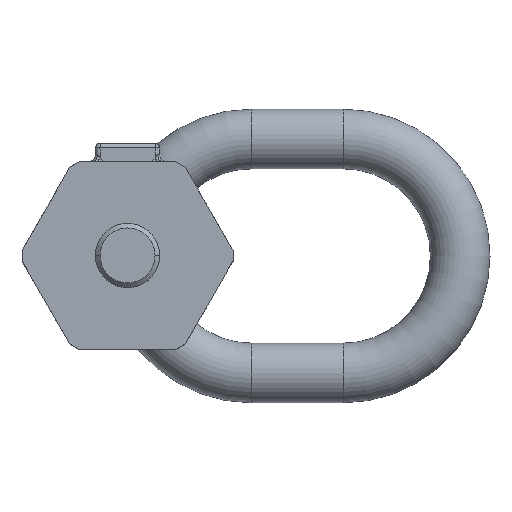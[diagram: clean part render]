
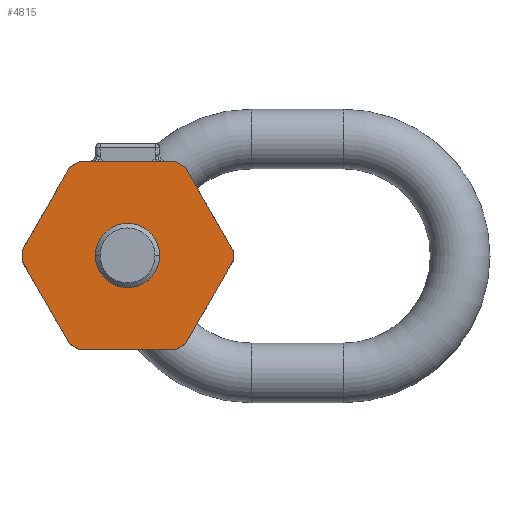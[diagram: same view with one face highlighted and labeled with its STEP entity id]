
A CAD part, top view. The second image highlights one B-rep face of the part: STEP entity #4815.
In plain terms, the highlighted planar face has unit normal (0, 0, 1).
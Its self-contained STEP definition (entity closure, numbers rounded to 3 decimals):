
#1=DIRECTION('',(-0.866,-0.5,0.));
#2=VECTOR('',#1,2.326);
#3=CARTESIAN_POINT('',(-10.493,20.5,54.5));
#4=LINE('',#3,#2);
#16=CARTESIAN_POINT('',(0.,0.,54.5));
#17=DIRECTION('',(0.,0.,1.));
#18=DIRECTION('',(1.,0.,0.));
#19=AXIS2_PLACEMENT_3D('',#16,#17,#18);
#21=CARTESIAN_POINT('',(0.,0.,54.5));
#22=DIRECTION('',(0.,0.,1.));
#23=DIRECTION('',(-1.,0.,0.));
#24=AXIS2_PLACEMENT_3D('',#21,#22,#23);
#76=DIRECTION('',(-1.,0.,0.));
#77=VECTOR('',#76,20.986);
#78=CARTESIAN_POINT('',(10.493,20.5,54.5));
#79=LINE('',#78,#77);
#622=DIRECTION('',(0.866,0.5,0.));
#623=VECTOR('',#622,2.326);
#624=CARTESIAN_POINT('',(10.493,-20.5,54.5));
#625=LINE('',#624,#623);
#776=DIRECTION('',(1.,0.,0.));
#777=VECTOR('',#776,20.986);
#778=CARTESIAN_POINT('',(-10.493,-20.5,54.5));
#779=LINE('',#778,#777);
#1889=DIRECTION('',(0.866,-0.5,0.));
#1890=VECTOR('',#1889,2.326);
#1891=CARTESIAN_POINT('',(-12.507,-19.337,54.5));
#1892=LINE('',#1891,#1890);
#1923=DIRECTION('',(0.5,-0.866,0.));
#1924=VECTOR('',#1923,20.986);
#1925=CARTESIAN_POINT('',(-23.,-1.163,54.5));
#1926=LINE('',#1925,#1924);
#1931=DIRECTION('',(0.,-1.,0.));
#1932=VECTOR('',#1931,2.326);
#1933=CARTESIAN_POINT('',(-23.,1.163,54.5));
#1934=LINE('',#1933,#1932);
#1939=DIRECTION('',(-0.5,-0.866,0.));
#1940=VECTOR('',#1939,20.986);
#1941=CARTESIAN_POINT('',(-12.507,19.337,54.5));
#1942=LINE('',#1941,#1940);
#1947=DIRECTION('',(0.5,0.866,0.));
#1948=VECTOR('',#1947,20.986);
#1949=CARTESIAN_POINT('',(12.507,-19.337,54.5));
#1950=LINE('',#1949,#1948);
#1955=DIRECTION('',(0.,1.,0.));
#1956=VECTOR('',#1955,2.326);
#1957=CARTESIAN_POINT('',(23.,-1.163,54.5));
#1958=LINE('',#1957,#1956);
#1963=DIRECTION('',(-0.5,0.866,0.));
#1964=VECTOR('',#1963,20.986);
#1965=CARTESIAN_POINT('',(23.,1.163,54.5));
#1966=LINE('',#1965,#1964);
#1971=DIRECTION('',(-0.866,0.5,0.));
#1972=VECTOR('',#1971,2.326);
#1973=CARTESIAN_POINT('',(12.507,19.337,54.5));
#1974=LINE('',#1973,#1972);
#4164=CARTESIAN_POINT('',(-10.493,20.5,54.5));
#4165=CARTESIAN_POINT('',(-12.507,19.337,54.5));
#4166=VERTEX_POINT('',#4164);
#4167=VERTEX_POINT('',#4165);
#4168=CARTESIAN_POINT('',(-23.,1.163,54.5));
#4169=VERTEX_POINT('',#4168);
#4170=CARTESIAN_POINT('',(-23.,-1.163,54.5));
#4171=VERTEX_POINT('',#4170);
#4172=CARTESIAN_POINT('',(-12.507,-19.337,54.5));
#4173=VERTEX_POINT('',#4172);
#4174=CARTESIAN_POINT('',(-10.493,-20.5,54.5));
#4175=VERTEX_POINT('',#4174);
#4176=CARTESIAN_POINT('',(10.493,-20.5,54.5));
#4177=VERTEX_POINT('',#4176);
#4178=CARTESIAN_POINT('',(12.507,-19.337,54.5));
#4179=VERTEX_POINT('',#4178);
#4180=CARTESIAN_POINT('',(23.,-1.163,54.5));
#4181=VERTEX_POINT('',#4180);
#4182=CARTESIAN_POINT('',(23.,1.163,54.5));
#4183=VERTEX_POINT('',#4182);
#4184=CARTESIAN_POINT('',(12.507,19.337,54.5));
#4185=VERTEX_POINT('',#4184);
#4186=CARTESIAN_POINT('',(10.493,20.5,54.5));
#4187=VERTEX_POINT('',#4186);
#4196=CARTESIAN_POINT('',(7.,0.,54.5));
#4197=CARTESIAN_POINT('',(-7.,0.,54.5));
#4198=VERTEX_POINT('',#4196);
#4199=VERTEX_POINT('',#4197);
#4779=CARTESIAN_POINT('',(50.,-50.,54.5));
#4780=DIRECTION('',(0.,0.,-1.));
#4781=DIRECTION('',(-1.,0.,0.));
#4782=AXIS2_PLACEMENT_3D('',#4779,#4780,#4781);
#4783=PLANE('',#4782);
#4784=ORIENTED_EDGE('',*,*,#4768,.F.);
#4786=ORIENTED_EDGE('',*,*,#4785,.F.);
#4788=ORIENTED_EDGE('',*,*,#4787,.F.);
#4790=ORIENTED_EDGE('',*,*,#4789,.F.);
#4792=ORIENTED_EDGE('',*,*,#4791,.F.);
#4794=ORIENTED_EDGE('',*,*,#4793,.F.);
#4796=ORIENTED_EDGE('',*,*,#4795,.F.);
#4798=ORIENTED_EDGE('',*,*,#4797,.F.);
#4800=ORIENTED_EDGE('',*,*,#4799,.F.);
#4802=ORIENTED_EDGE('',*,*,#4801,.F.);
#4804=ORIENTED_EDGE('',*,*,#4803,.F.);
#4806=ORIENTED_EDGE('',*,*,#4805,.F.);
#4807=EDGE_LOOP('',(#4784,#4786,#4788,#4790,#4792,#4794,#4796,#4798,#4800,#4802,
#4804,#4806));
#4808=FACE_OUTER_BOUND('',#4807,.F.);
#4810=ORIENTED_EDGE('',*,*,#4809,.T.);
#4812=ORIENTED_EDGE('',*,*,#4811,.T.);
#4813=EDGE_LOOP('',(#4810,#4812));
#4814=FACE_BOUND('',#4813,.F.);
#4815=ADVANCED_FACE('',(#4808,#4814),#4783,.F.);
#20=CIRCLE('',#19,7.);
#25=CIRCLE('',#24,7.);
#4768=EDGE_CURVE('',#4166,#4167,#4,.T.);
#4785=EDGE_CURVE('',#4187,#4166,#79,.T.);
#4787=EDGE_CURVE('',#4185,#4187,#1974,.T.);
#4789=EDGE_CURVE('',#4183,#4185,#1966,.T.);
#4791=EDGE_CURVE('',#4181,#4183,#1958,.T.);
#4793=EDGE_CURVE('',#4179,#4181,#1950,.T.);
#4795=EDGE_CURVE('',#4177,#4179,#625,.T.);
#4797=EDGE_CURVE('',#4175,#4177,#779,.T.);
#4799=EDGE_CURVE('',#4173,#4175,#1892,.T.);
#4801=EDGE_CURVE('',#4171,#4173,#1926,.T.);
#4803=EDGE_CURVE('',#4169,#4171,#1934,.T.);
#4805=EDGE_CURVE('',#4167,#4169,#1942,.T.);
#4809=EDGE_CURVE('',#4198,#4199,#20,.T.);
#4811=EDGE_CURVE('',#4199,#4198,#25,.T.);
